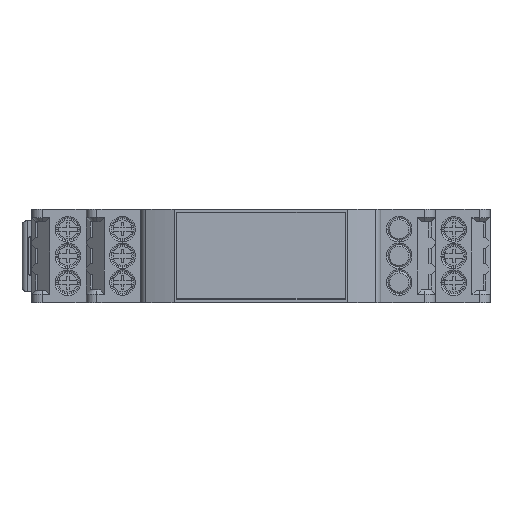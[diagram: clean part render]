
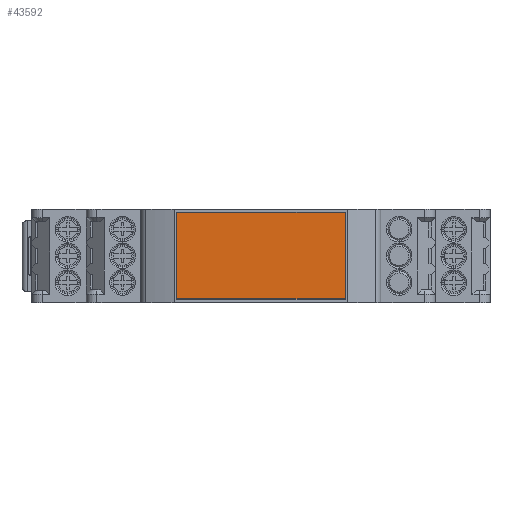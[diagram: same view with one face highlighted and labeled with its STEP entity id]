
A CAD part, top view. The second image highlights one B-rep face of the part: STEP entity #43592.
In plain terms, the highlighted planar face has unit normal (0, 0, 1).
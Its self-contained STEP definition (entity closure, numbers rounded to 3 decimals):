
#16410 = CARTESIAN_POINT ( 'NONE',  ( -28.207, -4.457, 59.595 ) ) ;
#16412 = DIRECTION ( 'NONE',  ( 0., -1., 0. ) ) ;
#16413 = VECTOR ( 'NONE', #16412, 1000. ) ;
#16414 = CARTESIAN_POINT ( 'NONE',  ( -28.207, -4.457, 59.595 ) ) ;
#16415 = LINE ( 'NONE', #16414, #16413 ) ;
#16418 = CARTESIAN_POINT ( 'NONE',  ( -28.207, -20.557, 59.595 ) ) ;
#17296 = FACE_OUTER_BOUND ( 'NONE', #43593, .T. ) ;
#17301 = AXIS2_PLACEMENT_3D ( 'NONE', #17408, #17407, #17406 ) ;
#17302 = PLANE ( 'NONE',  #17301 ) ;
#17325 = LINE ( 'NONE', #17432, #17431 ) ;
#17326 = CARTESIAN_POINT ( 'NONE',  ( 3.493, -4.457, 59.595 ) ) ;
#17401 = DIRECTION ( 'NONE',  ( 1., 0., 0. ) ) ;
#17402 = VECTOR ( 'NONE', #17401, 1000. ) ;
#17403 = CARTESIAN_POINT ( 'NONE',  ( -28.207, -20.557, 59.595 ) ) ;
#17404 = LINE ( 'NONE', #17403, #17402 ) ;
#17406 = DIRECTION ( 'NONE',  ( 1., 0., 0. ) ) ;
#17407 = DIRECTION ( 'NONE',  ( 0., 0., 1. ) ) ;
#17408 = CARTESIAN_POINT ( 'NONE',  ( -28.207, -20.557, 59.595 ) ) ;
#17429 = CARTESIAN_POINT ( 'NONE',  ( 3.493, -20.557, 59.595 ) ) ;
#17430 = DIRECTION ( 'NONE',  ( 0., 1., 0. ) ) ;
#17431 = VECTOR ( 'NONE', #17430, 1000. ) ;
#17432 = CARTESIAN_POINT ( 'NONE',  ( 3.493, -4.457, 59.595 ) ) ;
#17957 = DIRECTION ( 'NONE',  ( -1., 0., 0. ) ) ;
#17958 = VECTOR ( 'NONE', #17957, 1000. ) ;
#17959 = CARTESIAN_POINT ( 'NONE',  ( -28.207, -4.457, 59.595 ) ) ;
#17960 = LINE ( 'NONE', #17959, #17958 ) ;
#43501 = VERTEX_POINT ( 'NONE', #16418 ) ;
#43503 = EDGE_CURVE ( 'NONE', #43504, #43501, #16415, .T. ) ;
#43504 = VERTEX_POINT ( 'NONE', #16410 ) ;
#43586 = VERTEX_POINT ( 'NONE', #17326 ) ;
#43588 = EDGE_CURVE ( 'NONE', #43589, #43586, #17325, .T. ) ;
#43589 = VERTEX_POINT ( 'NONE', #17429 ) ;
#43592 = ADVANCED_FACE ( 'NONE', ( #17296 ), #17302, .T. ) ;
#43593 = EDGE_LOOP ( 'NONE', ( #43594, #43595, #43597, #43803 ) ) ;
#43594 = ORIENTED_EDGE ( 'NONE', *, *, #43503, .T. ) ;
#43595 = ORIENTED_EDGE ( 'NONE', *, *, #43596, .T. ) ;
#43596 = EDGE_CURVE ( 'NONE', #43501, #43589, #17404, .T. ) ;
#43597 = ORIENTED_EDGE ( 'NONE', *, *, #43588, .T. ) ;
#43803 = ORIENTED_EDGE ( 'NONE', *, *, #43804, .T. ) ;
#43804 = EDGE_CURVE ( 'NONE', #43586, #43504, #17960, .T. ) ;
